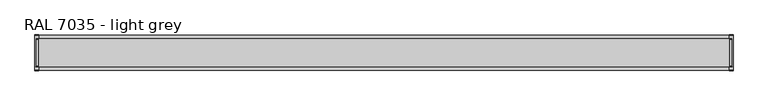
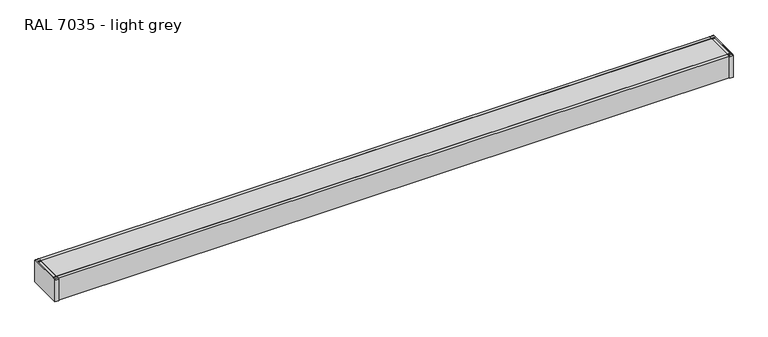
"""IFC4 building model written with IfcOpenShell, lengths in millimetres: proxy geometry, Electrical_Installations_Hager_BRP-Lid-End-Cap-One-Compartment : RAL 7035 - light grey."""

from ifc_helpers import new_model, si_unit, frame, origin, place, context, project, spatial, polyline, circle_curve, outline, extrude, source, transform, mapped, element, save
from ifc_brep_helpers import plane_surface, cylinder_surface, revolved_surface, advanced_brep


def ral_7035_light_grey_bdd1ccd4(model_context):
    return source(origin(), model_context, "Body", "SolidModel", [
        advanced_brep(
        [(2001.7057953, 51.25, 30.95), (2001.7057953, 48.25, 33.95), (2001.7057953, -48.25, 33.95), (2001.7057953, -51.25, 30.95), (2001.7057953, -51.25, -36.15), (2001.7057953, 51.25, -36.15), (2000.0, 41.3486227, 33.95), (2000.0, 39.7831004, 32.5816692), (2000.0, 38.8540942, 31.8477982), (2000.0, -38.8540942, 31.8477982), (2000.0, -39.8003006, 32.7991169), (2000.0, -40.8849518, 33.95), (2000.0, -50.25, -36.15), (2000.0, -50.25, 30.893231), (2000.0, -48.2258096, 32.9174214), (2000.0, -41.5797272, 32.9174214), (2000.0, -40.6819986, 32.1076317), (2000.0, -38.8211594, 30.840625), (2000.0, 38.8211594, 30.840625), (2000.0, 40.6819986, 32.1076317), (2000.0, 41.5797272, 32.9174214), (2000.0, 48.1823332, 32.9174214), (2000.0, 50.2065236, 30.893231), (2000.0, 50.2065236, -36.15), (1990.7057953, 51.25, -36.15), (1990.7057953, 51.25, 30.9198795), (2000.0, 51.25, 30.9198795), (2000.0, -51.25, 30.95), (1990.7057953, -51.25, 30.9423146), (1990.7057953, -51.25, -36.15), (2000.0, 48.25, 33.95), (1990.7057953, 48.2198795, 33.95), (1990.7057953, 41.3486227, 33.95), (1990.7057953, -40.8849518, 33.95), (1990.7057953, -48.2423146, 33.95), (2000.0, -48.2423146, 33.95), (1990.7057953, 38.8540942, 31.8477982), (1990.7057953, 39.7831004, 32.5816692), (1990.7057953, 50.2065236, -36.15), (1990.7057953, 50.2065236, 30.893231), (1990.7057953, 48.1823332, 32.9174214), (1990.7057953, 41.5797272, 32.9174214), (1990.7057953, 40.6819986, 32.1076317), (1990.7057953, 38.8211594, 30.840625), (1990.7057953, -38.8211594, 30.840625), (1990.7057953, -40.6819986, 32.1076317), (1990.7057953, -41.5797272, 32.9174214), (1990.7057953, -48.2258096, 32.9174214), (1990.7057953, -50.25, 30.893231), (1990.7057953, -50.25, -36.15), (1990.7057953, -39.8003006, 32.7991169), (1990.7057953, -38.8540942, 31.8477982)],
        [
            (0, 1, circle_curve(frame((2001.7057953, 48.25, 30.95), z_axis=(1.0, 0.0, 0.0), x_axis=(0.0, 1.0, 0.0)), 3.0)),
            (1, 2),
            (2, 3, circle_curve(frame((2001.7057953, -48.25, 30.95), z_axis=(1.0, 0.0, 0.0), x_axis=(0.0, 1.0, 0.0)), 3.0)),
            (3, 4),
            (4, 5),
            (5, 0),
            (6, 7, circle_curve(frame((2000.0, 41.5321879, 32.16025), z_axis=(1.0, 0.0, 0.0), x_axis=(0.0, 0.0, -1.0)), 1.799139)),
            (7, 8, circle_curve(frame((2000.0, 38.8540942, 32.8027473), z_axis=(-1.0, 0.0, 0.0), x_axis=(0.0, 0.0, -1.0)), 0.9549491)),
            (8, 9),
            (9, 10, circle_curve(frame((2000.0, -38.8540942, 32.7940183), z_axis=(-1.0, 0.0, 0.0), x_axis=(0.0, 0.0, -1.0)), 0.9462201)),
            (10, 11, circle_curve(frame((2000.0, -41.5602767, 32.2269822), z_axis=(1.0, 0.0, 0.0), x_axis=(0.0, 0.0, -1.0)), 1.8506361)),
            (11, 6),
            (12, 13),
            (13, 14, circle_curve(frame((2000.0, -48.2258096, 30.893231), z_axis=(-1.0, 0.0, 0.0), x_axis=(0.0, 0.0, -1.0)), 2.0241904)),
            (14, 15),
            (15, 16, circle_curve(frame((2000.0, -41.5797272, 32.014918), z_axis=(-1.0, 0.0, 0.0), x_axis=(0.0, 0.0, -1.0)), 0.9025034)),
            (16, 17, circle_curve(frame((2000.0, -38.8211594, 32.8406257), z_axis=(1.0, 0.0, 0.0), x_axis=(0.0, 0.0, -1.0)), 2.0000007)),
            (17, 18),
            (18, 19, circle_curve(frame((2000.0, 38.8211594, 32.8406257), z_axis=(1.0, 0.0, 0.0), x_axis=(0.0, 0.0, -1.0)), 2.0000007)),
            (19, 20, circle_curve(frame((2000.0, 41.5797272, 32.014918), z_axis=(-1.0, 0.0, 0.0), x_axis=(0.0, 0.0, -1.0)), 0.9025034)),
            (20, 21),
            (21, 22, circle_curve(frame((2000.0, 48.1823332, 30.893231), z_axis=(-1.0, 0.0, 0.0), x_axis=(0.0, 0.0, -1.0)), 2.0241904)),
            (22, 23),
            (23, 12),
            (5, 24),
            (24, 25),
            (25, 26),
            (26, 0),
            (3, 27),
            (27, 28),
            (28, 29),
            (29, 4),
            (1, 30),
            (30, 31),
            (31, 32),
            (32, 6),
            (11, 33),
            (33, 34),
            (34, 35),
            (35, 2),
            (36, 37, circle_curve(frame((1990.7057953, 38.8540942, 32.8027473), z_axis=(1.0, 0.0, 0.0), x_axis=(0.0, 0.0, -1.0)), 0.9549491)),
            (37, 32, circle_curve(frame((1990.7057953, 41.5321879, 32.16025), z_axis=(-1.0, 0.0, 0.0), x_axis=(0.0, 0.0, -1.0)), 1.799139)),
            (31, 25, circle_curve(frame((1990.7057953, 48.2198795, 30.9198795), z_axis=(-1.0, 0.0, 0.0), x_axis=(0.0, 0.0, -1.0)), 3.0301205)),
            (24, 38),
            (38, 39),
            (39, 40, circle_curve(frame((1990.7057953, 48.1823332, 30.893231), z_axis=(1.0, 0.0, 0.0), x_axis=(0.0, 0.0, -1.0)), 2.0241904)),
            (40, 41),
            (41, 42, circle_curve(frame((1990.7057953, 41.5797272, 32.014918), z_axis=(1.0, 0.0, 0.0), x_axis=(0.0, 0.0, -1.0)), 0.9025034)),
            (42, 43, circle_curve(frame((1990.7057953, 38.8211594, 32.8406257), z_axis=(-1.0, 0.0, 0.0), x_axis=(0.0, 0.0, -1.0)), 2.0000007)),
            (43, 44),
            (44, 45, circle_curve(frame((1990.7057953, -38.8211594, 32.8406257), z_axis=(-1.0, 0.0, 0.0), x_axis=(0.0, 0.0, -1.0)), 2.0000007)),
            (45, 46, circle_curve(frame((1990.7057953, -41.5797272, 32.014918), z_axis=(1.0, 0.0, 0.0), x_axis=(0.0, 0.0, -1.0)), 0.9025034)),
            (46, 47),
            (47, 48, circle_curve(frame((1990.7057953, -48.2258096, 30.893231), z_axis=(1.0, 0.0, 0.0), x_axis=(0.0, 0.0, -1.0)), 2.0241904)),
            (48, 49),
            (49, 29),
            (28, 34, circle_curve(frame((1990.7057953, -48.2423146, 30.9423146), z_axis=(-1.0, 0.0, 0.0), x_axis=(0.0, 0.0, -1.0)), 3.0076854)),
            (33, 50, circle_curve(frame((1990.7057953, -41.5602767, 32.2269822), z_axis=(-1.0, 0.0, 0.0), x_axis=(0.0, 0.0, -1.0)), 1.8506361)),
            (50, 51, circle_curve(frame((1990.7057953, -38.8540942, 32.7940183), z_axis=(1.0, 0.0, 0.0), x_axis=(0.0, 0.0, -1.0)), 0.9462201)),
            (51, 36),
            (36, 8),
            (7, 37),
            (30, 26, circle_curve(frame((2000.0, 48.2198795, 30.9198795), z_axis=(-1.0, 0.0, 0.0), x_axis=(0.0, 0.0, -1.0)), 3.0301205)),
            (38, 23),
            (22, 39),
            (21, 40),
            (20, 41),
            (19, 42),
            (18, 43),
            (17, 44),
            (16, 45),
            (15, 46),
            (14, 47),
            (13, 48),
            (12, 49),
            (27, 35, circle_curve(frame((2000.0, -48.2423146, 30.9423146), z_axis=(-1.0, 0.0, 0.0), x_axis=(0.0, 0.0, -1.0)), 3.0076854)),
            (10, 50),
            (9, 51),
        ],
        [
            plane_surface(frame((2001.7057953, 51.25, -36.15), z_axis=(1.0, 0.0, 0.0), x_axis=(0.0, 0.0, -1.0))),
            plane_surface(frame((2000.0, 51.25, -36.15), z_axis=(-1.0, 0.0, 0.0), x_axis=(0.0, 0.0, 1.0))),
            plane_surface(frame((2001.7057953, 51.25, 30.95), z_axis=(0.0, 1.0, 0.0), x_axis=(-1.0, 0.0, 0.0))),
            plane_surface(frame((2001.7057953, -51.25, -36.15), z_axis=(0.0, -1.0, 0.0), x_axis=(-1.0, 0.0, 0.0))),
            plane_surface(frame((2001.7057953, -48.25, 33.95), z_axis=(0.0, 0.0, 1.0), x_axis=(-1.0, 0.0, 0.0))),
            plane_surface(frame((1990.7057953, -32.5, -0.05), z_axis=(-1.0, 0.0, 0.0), x_axis=(0.0, 0.0, -1.0))),
            revolved_surface(polyline([(1990.7057953, 38.8540942, 31.8477982), (2000.0, 38.8540942, 31.8477982)]), (2000.0, 38.8540942, 32.8027473), (-1.0, 0.0, 0.0)),
            cylinder_surface(frame((2000.0, 41.5321879, 32.16025), z_axis=(1.0, 0.0, 0.0), x_axis=(0.0, 0.0, -1.0)), 1.799139),
            cylinder_surface(frame((2000.0, 48.2198795, 30.9198795), z_axis=(1.0, 0.0, 0.0), x_axis=(0.0, 0.0, -1.0)), 3.0301205),
            plane_surface(frame((2000.0, 50.2065236, -36.15), z_axis=(0.0, -1.0, 0.0), x_axis=(-1.0, 0.0, 0.0))),
            revolved_surface(polyline([(1990.7057953, 48.1823332, 28.869040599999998), (2000.0, 48.1823332, 28.869040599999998)]), (2000.0, 48.1823332, 30.893231), (-1.0, 0.0, 0.0)),
            plane_surface(frame((2000.0, 48.1823332, 32.9174214), z_axis=(0.0, 0.0, -1.0), x_axis=(-1.0, 0.0, 0.0))),
            revolved_surface(polyline([(1990.7057953, 41.5797272, 31.1124146), (2000.0, 41.5797272, 31.1124146)]), (2000.0, 41.5797272, 32.014918), (-1.0, 0.0, 0.0)),
            cylinder_surface(frame((2000.0, 38.8211594, 32.8406257), z_axis=(1.0, 0.0, 0.0), x_axis=(0.0, 0.0, -1.0)), 2.0000007),
            plane_surface(frame((2000.0, 38.8211594, 30.840625), z_axis=(0.0, 0.0, -1.0), x_axis=(-1.0, 0.0, 0.0))),
            cylinder_surface(frame((2000.0, -38.8211594, 32.8406257), z_axis=(1.0, 0.0, 0.0), x_axis=(0.0, 0.0, -1.0)), 2.0000007),
            revolved_surface(polyline([(1990.7057953, -41.5797272, 31.1124146), (2000.0, -41.5797272, 31.1124146)]), (2000.0, -41.5797272, 32.014918), (-1.0, 0.0, 0.0)),
            plane_surface(frame((2000.0, -41.5797272, 32.9174214), z_axis=(0.0, 0.0, -1.0), x_axis=(-1.0, 0.0, 0.0))),
            revolved_surface(polyline([(1990.7057953, -48.2258096, 28.869040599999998), (2000.0, -48.2258096, 28.869040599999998)]), (2000.0, -48.2258096, 30.893231), (-1.0, 0.0, 0.0)),
            plane_surface(frame((2000.0, -50.25, 30.893231), z_axis=(0.0, 1.0, 0.0), x_axis=(-1.0, 0.0, 0.0))),
            cylinder_surface(frame((2000.0, -48.2423146, 30.9423146), z_axis=(1.0, 0.0, 0.0), x_axis=(0.0, 0.0, -1.0)), 3.0076854),
            cylinder_surface(frame((2000.0, -41.5602767, 32.2269822), z_axis=(1.0, 0.0, 0.0), x_axis=(0.0, 0.0, -1.0)), 1.8506361),
            revolved_surface(polyline([(1990.7057953, -38.8540942, 31.847798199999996), (2000.0, -38.8540942, 31.847798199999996)]), (2000.0, -38.8540942, 32.7940183), (-1.0, 0.0, 0.0)),
            plane_surface(frame((2000.0, -38.8540942, 31.8477982), z_axis=(0.0, 0.0, 1.0), x_axis=(-1.0, 0.0, 0.0))),
            cylinder_surface(frame((2000.0, -48.25, 30.95), z_axis=(1.0, 0.0, 0.0), x_axis=(0.0, 1.0, 0.0)), 3.0),
            cylinder_surface(frame((2000.0, 48.25, 30.95), z_axis=(1.0, 0.0, 0.0), x_axis=(0.0, 1.0, 0.0)), 3.0),
            plane_surface(frame((2001.7057953, 51.25, -36.15), z_axis=(0.0, 0.0, -1.0), x_axis=(-1.0, 0.0, 0.0))),
        ],
        [
            (0, [[1, 2, 3, 4, 5, 6]]),
            (1, [[7, 8, 9, 10, 11, 12]]),
            (1, [[13, 14, 15, 16, 17, 18, 19, 20, 21, 22, 23, 24]]),
            (2, [[25, 26, 27, 28, -6]]),
            (3, [[29, 30, 31, 32, -4]]),
            (4, [[33, 34, 35, 36, -12, 37, 38, 39, 40, -2]]),
            (5, [[41, 42, -35, 43, -26, 44, 45, 46, 47, 48, 49, 50, 51, 52, 53, 54, 55, 56, -31, 57, -38, 58, 59, 60]]),
            (6, [[61, -8, 62, -41]]),
            (7, [[-62, -7, -36, -42]]),
            (8, [[-34, 63, -27, -43]]),
            (9, [[64, -23, 65, -45]]),
            (10, [[-65, -22, 66, -46]]),
            (11, [[-66, -21, 67, -47]]),
            (12, [[-67, -20, 68, -48]]),
            (13, [[-68, -19, 69, -49]]),
            (14, [[-69, -18, 70, -50]]),
            (15, [[-70, -17, 71, -51]]),
            (16, [[-71, -16, 72, -52]]),
            (17, [[-72, -15, 73, -53]]),
            (18, [[-73, -14, 74, -54]]),
            (19, [[-74, -13, 75, -55]]),
            (20, [[-30, 76, -39, -57]]),
            (21, [[-37, -11, 77, -58]]),
            (22, [[-77, -10, 78, -59]]),
            (23, [[-78, -9, -61, -60]]),
            (24, [[-40, -76, -29, -3]]),
            (25, [[-28, -63, -33, -1]]),
            (26, [[-56, -75, -24, -64, -44, -25, -5, -32]]),
        ],
    ),
        advanced_brep(
        [(-1.7057953, 51.25, 30.95), (-1.7057953, 51.25, -36.15), (-1.7057953, -51.25, -36.15), (-1.7057953, -51.25, 30.95), (-1.7057953, -48.25, 33.95), (-1.7057953, 48.25, 33.95), (0.0, 41.3486227, 33.95), (0.0, -40.8849518, 33.95), (0.0, -39.8003006, 32.7991169), (0.0, -38.8540942, 31.8477982), (0.0, 38.8540942, 31.8477982), (0.0, 39.7831004, 32.5816692), (0.0, -50.25, -36.15), (0.0, 50.2065236, -36.15), (0.0, 50.2065236, 30.893231), (0.0, 48.1823332, 32.9174214), (0.0, 41.5797272, 32.9174214), (0.0, 40.6819986, 32.1076317), (0.0, 38.8211594, 30.840625), (0.0, -38.8211594, 30.840625), (0.0, -40.6819986, 32.1076317), (0.0, -41.5797272, 32.9174214), (0.0, -48.2258096, 32.9174214), (0.0, -50.25, 30.893231), (0.0, 51.25, 30.95), (9.2942047, 51.25, 30.9198795), (9.2942047, 51.25, -36.15), (9.2942047, -51.25, -36.15), (9.2942047, -51.25, 30.9423146), (0.0, -51.25, 30.9423146), (0.0, -48.25, 33.95), (9.2942047, -48.2423146, 33.95), (9.2942047, -40.8849518, 33.95), (9.2942047, 41.3486227, 33.95), (9.2942047, 48.2198795, 33.95), (0.0, 48.2198795, 33.95), (9.2942047, 38.8540942, 31.8477982), (9.2942047, -38.8540942, 31.8477982), (9.2942047, -39.8003006, 32.7991169), (9.2942047, -50.25, -36.15), (9.2942047, -50.25, 30.893231), (9.2942047, -48.2258096, 32.9174214), (9.2942047, -41.5797272, 32.9174214), (9.2942047, -40.6819986, 32.1076317), (9.2942047, -38.8211594, 30.840625), (9.2942047, 38.8211594, 30.840625), (9.2942047, 40.6819986, 32.1076317), (9.2942047, 41.5797272, 32.9174214), (9.2942047, 48.1823332, 32.9174214), (9.2942047, 50.2065236, 30.893231), (9.2942047, 50.2065236, -36.15), (9.2942047, 39.7831004, 32.5816692)],
        [
            (0, 1),
            (1, 2),
            (2, 3),
            (3, 4, circle_curve(frame((-1.7057953, -48.25, 30.95), z_axis=(-1.0, 0.0, 0.0), x_axis=(0.0, 1.0, 0.0)), 3.0)),
            (4, 5),
            (5, 0, circle_curve(frame((-1.7057953, 48.25, 30.95), z_axis=(-1.0, 0.0, 0.0), x_axis=(0.0, 1.0, 0.0)), 3.0)),
            (6, 7),
            (7, 8, circle_curve(frame((0.0, -41.5602767, 32.2269822), z_axis=(-1.0, 0.0, 0.0), x_axis=(0.0, 0.0, -1.0)), 1.8506361)),
            (8, 9, circle_curve(frame((0.0, -38.8540942, 32.7940183), z_axis=(1.0, 0.0, 0.0), x_axis=(0.0, 0.0, -1.0)), 0.9462201)),
            (9, 10),
            (10, 11, circle_curve(frame((0.0, 38.8540942, 32.8027473), z_axis=(1.0, 0.0, 0.0), x_axis=(0.0, 0.0, -1.0)), 0.9549491)),
            (11, 6, circle_curve(frame((0.0, 41.5321879, 32.16025), z_axis=(-1.0, 0.0, 0.0), x_axis=(0.0, 0.0, -1.0)), 1.799139)),
            (12, 13),
            (13, 14),
            (14, 15, circle_curve(frame((0.0, 48.1823332, 30.893231), z_axis=(1.0, 0.0, 0.0), x_axis=(0.0, 0.0, -1.0)), 2.0241904)),
            (15, 16),
            (16, 17, circle_curve(frame((0.0, 41.5797272, 32.014918), z_axis=(1.0, 0.0, 0.0), x_axis=(0.0, 0.0, -1.0)), 0.9025034)),
            (17, 18, circle_curve(frame((0.0, 38.8211594, 32.8406257), z_axis=(-1.0, 0.0, 0.0), x_axis=(0.0, 0.0, -1.0)), 2.0000007)),
            (18, 19),
            (19, 20, circle_curve(frame((0.0, -38.8211594, 32.8406257), z_axis=(-1.0, 0.0, 0.0), x_axis=(0.0, 0.0, -1.0)), 2.0000007)),
            (20, 21, circle_curve(frame((0.0, -41.5797272, 32.014918), z_axis=(1.0, 0.0, 0.0), x_axis=(0.0, 0.0, -1.0)), 0.9025034)),
            (21, 22),
            (22, 23, circle_curve(frame((0.0, -48.2258096, 30.893231), z_axis=(1.0, 0.0, 0.0), x_axis=(0.0, 0.0, -1.0)), 2.0241904)),
            (23, 12),
            (0, 24),
            (24, 25),
            (25, 26),
            (26, 1),
            (2, 27),
            (27, 28),
            (28, 29),
            (29, 3),
            (4, 30),
            (30, 31),
            (31, 32),
            (32, 7),
            (6, 33),
            (33, 34),
            (34, 35),
            (35, 5),
            (36, 37),
            (37, 38, circle_curve(frame((9.2942047, -38.8540942, 32.7940183), z_axis=(-1.0, 0.0, 0.0), x_axis=(0.0, 0.0, -1.0)), 0.9462201)),
            (38, 32, circle_curve(frame((9.2942047, -41.5602767, 32.2269822), z_axis=(1.0, 0.0, 0.0), x_axis=(0.0, 0.0, -1.0)), 1.8506361)),
            (31, 28, circle_curve(frame((9.2942047, -48.2423146, 30.9423146), z_axis=(1.0, 0.0, 0.0), x_axis=(0.0, 0.0, -1.0)), 3.0076854)),
            (27, 39),
            (39, 40),
            (40, 41, circle_curve(frame((9.2942047, -48.2258096, 30.893231), z_axis=(-1.0, 0.0, 0.0), x_axis=(0.0, 0.0, -1.0)), 2.0241904)),
            (41, 42),
            (42, 43, circle_curve(frame((9.2942047, -41.5797272, 32.014918), z_axis=(-1.0, 0.0, 0.0), x_axis=(0.0, 0.0, -1.0)), 0.9025034)),
            (43, 44, circle_curve(frame((9.2942047, -38.8211594, 32.8406257), z_axis=(1.0, 0.0, 0.0), x_axis=(0.0, 0.0, -1.0)), 2.0000007)),
            (44, 45),
            (45, 46, circle_curve(frame((9.2942047, 38.8211594, 32.8406257), z_axis=(1.0, 0.0, 0.0), x_axis=(0.0, 0.0, -1.0)), 2.0000007)),
            (46, 47, circle_curve(frame((9.2942047, 41.5797272, 32.014918), z_axis=(-1.0, 0.0, 0.0), x_axis=(0.0, 0.0, -1.0)), 0.9025034)),
            (47, 48),
            (48, 49, circle_curve(frame((9.2942047, 48.1823332, 30.893231), z_axis=(-1.0, 0.0, 0.0), x_axis=(0.0, 0.0, -1.0)), 2.0241904)),
            (49, 50),
            (50, 26),
            (25, 34, circle_curve(frame((9.2942047, 48.2198795, 30.9198795), z_axis=(1.0, 0.0, 0.0), x_axis=(0.0, 0.0, -1.0)), 3.0301205)),
            (33, 51, circle_curve(frame((9.2942047, 41.5321879, 32.16025), z_axis=(1.0, 0.0, 0.0), x_axis=(0.0, 0.0, -1.0)), 1.799139)),
            (51, 36, circle_curve(frame((9.2942047, 38.8540942, 32.8027473), z_axis=(-1.0, 0.0, 0.0), x_axis=(0.0, 0.0, -1.0)), 0.9549491)),
            (51, 11),
            (10, 36),
            (24, 35, circle_curve(frame((0.0, 48.2198795, 30.9198795), z_axis=(1.0, 0.0, 0.0), x_axis=(0.0, 0.0, -1.0)), 3.0301205)),
            (49, 14),
            (13, 50),
            (48, 15),
            (47, 16),
            (46, 17),
            (45, 18),
            (44, 19),
            (43, 20),
            (42, 21),
            (41, 22),
            (40, 23),
            (39, 12),
            (30, 29, circle_curve(frame((0.0, -48.2423146, 30.9423146), z_axis=(1.0, 0.0, 0.0), x_axis=(0.0, 0.0, -1.0)), 3.0076854)),
            (38, 8),
            (37, 9),
        ],
        [
            plane_surface(frame((-1.7057953, 51.25, -36.15), z_axis=(-1.0, 0.0, 0.0), x_axis=(0.0, 0.0, -1.0))),
            plane_surface(frame((0.0, 51.25, -36.15), z_axis=(1.0, 0.0, 0.0), x_axis=(0.0, 0.0, 1.0))),
            plane_surface(frame((-1.7057953, 51.25, 30.95), z_axis=(0.0, 1.0, 0.0), x_axis=(1.0, 0.0, 0.0))),
            plane_surface(frame((-1.7057953, -51.25, -36.15), z_axis=(0.0, -1.0, 0.0), x_axis=(1.0, 0.0, 0.0))),
            plane_surface(frame((-1.7057953, -48.25, 33.95), z_axis=(0.0, 0.0, 1.0), x_axis=(1.0, 0.0, 0.0))),
            plane_surface(frame((9.2942047, -32.5, -0.05), z_axis=(1.0, 0.0, 0.0), x_axis=(0.0, 0.0, -1.0))),
            revolved_surface(polyline([(9.2942047, 38.8540942, 31.8477982), (0.0, 38.8540942, 31.8477982)]), (0.0, 38.8540942, 32.8027473), (1.0, 0.0, 0.0)),
            cylinder_surface(frame((0.0, 41.5321879, 32.16025), z_axis=(-1.0, 0.0, 0.0), x_axis=(0.0, 0.0, -1.0)), 1.799139),
            cylinder_surface(frame((0.0, 48.2198795, 30.9198795), z_axis=(-1.0, 0.0, 0.0), x_axis=(0.0, 0.0, -1.0)), 3.0301205),
            plane_surface(frame((0.0, 50.2065236, -36.15), z_axis=(0.0, -1.0, 0.0), x_axis=(1.0, 0.0, 0.0))),
            revolved_surface(polyline([(9.2942047, 48.1823332, 28.869040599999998), (0.0, 48.1823332, 28.869040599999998)]), (0.0, 48.1823332, 30.893231), (1.0, 0.0, 0.0)),
            plane_surface(frame((0.0, 48.1823332, 32.9174214), z_axis=(0.0, 0.0, -1.0), x_axis=(1.0, 0.0, 0.0))),
            revolved_surface(polyline([(9.2942047, 41.5797272, 31.1124146), (0.0, 41.5797272, 31.1124146)]), (0.0, 41.5797272, 32.014918), (1.0, 0.0, 0.0)),
            cylinder_surface(frame((0.0, 38.8211594, 32.8406257), z_axis=(-1.0, 0.0, 0.0), x_axis=(0.0, 0.0, -1.0)), 2.0000007),
            plane_surface(frame((0.0, 38.8211594, 30.840625), z_axis=(0.0, 0.0, -1.0), x_axis=(1.0, 0.0, 0.0))),
            cylinder_surface(frame((0.0, -38.8211594, 32.8406257), z_axis=(-1.0, 0.0, 0.0), x_axis=(0.0, 0.0, -1.0)), 2.0000007),
            revolved_surface(polyline([(9.2942047, -41.5797272, 31.1124146), (0.0, -41.5797272, 31.1124146)]), (0.0, -41.5797272, 32.014918), (1.0, 0.0, 0.0)),
            plane_surface(frame((0.0, -41.5797272, 32.9174214), z_axis=(0.0, 0.0, -1.0), x_axis=(1.0, 0.0, 0.0))),
            revolved_surface(polyline([(9.2942047, -48.2258096, 28.869040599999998), (0.0, -48.2258096, 28.869040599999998)]), (0.0, -48.2258096, 30.893231), (1.0, 0.0, 0.0)),
            plane_surface(frame((0.0, -50.25, 30.893231), z_axis=(0.0, 1.0, 0.0), x_axis=(1.0, 0.0, 0.0))),
            cylinder_surface(frame((0.0, -48.2423146, 30.9423146), z_axis=(-1.0, 0.0, 0.0), x_axis=(0.0, 0.0, -1.0)), 3.0076854),
            cylinder_surface(frame((0.0, -41.5602767, 32.2269822), z_axis=(-1.0, 0.0, 0.0), x_axis=(0.0, 0.0, -1.0)), 1.8506361),
            revolved_surface(polyline([(9.2942047, -38.8540942, 31.847798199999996), (0.0, -38.8540942, 31.847798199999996)]), (0.0, -38.8540942, 32.7940183), (1.0, 0.0, 0.0)),
            plane_surface(frame((0.0, -38.8540942, 31.8477982), z_axis=(0.0, 0.0, 1.0), x_axis=(1.0, 0.0, 0.0))),
            cylinder_surface(frame((0.0, -48.25, 30.95), z_axis=(-1.0, 0.0, 0.0), x_axis=(0.0, 1.0, 0.0)), 3.0),
            cylinder_surface(frame((0.0, 48.25, 30.95), z_axis=(-1.0, 0.0, 0.0), x_axis=(0.0, 1.0, 0.0)), 3.0),
            plane_surface(frame((-1.7057953, 51.25, -36.15), z_axis=(0.0, 0.0, -1.0), x_axis=(1.0, 0.0, 0.0))),
        ],
        [
            (0, [[1, 2, 3, 4, 5, 6]]),
            (1, [[7, 8, 9, 10, 11, 12]]),
            (1, [[13, 14, 15, 16, 17, 18, 19, 20, 21, 22, 23, 24]]),
            (2, [[-1, 25, 26, 27, 28]]),
            (3, [[-3, 29, 30, 31, 32]]),
            (4, [[-5, 33, 34, 35, 36, -7, 37, 38, 39, 40]]),
            (5, [[41, 42, 43, -35, 44, -30, 45, 46, 47, 48, 49, 50, 51, 52, 53, 54, 55, 56, 57, -27, 58, -38, 59, 60]]),
            (6, [[-60, 61, -11, 62]]),
            (7, [[-59, -37, -12, -61]]),
            (8, [[-58, -26, 63, -39]]),
            (9, [[-56, 64, -14, 65]]),
            (10, [[-55, 66, -15, -64]]),
            (11, [[-54, 67, -16, -66]]),
            (12, [[-53, 68, -17, -67]]),
            (13, [[-52, 69, -18, -68]]),
            (14, [[-51, 70, -19, -69]]),
            (15, [[-50, 71, -20, -70]]),
            (16, [[-49, 72, -21, -71]]),
            (17, [[-48, 73, -22, -72]]),
            (18, [[-47, 74, -23, -73]]),
            (19, [[-46, 75, -24, -74]]),
            (20, [[-44, -34, 76, -31]]),
            (21, [[-43, 77, -8, -36]]),
            (22, [[-42, 78, -9, -77]]),
            (23, [[-41, -62, -10, -78]]),
            (24, [[-4, -32, -76, -33]]),
            (25, [[-6, -40, -63, -25]]),
            (26, [[-29, -2, -28, -57, -65, -13, -75, -45]]),
        ],
    ),
        extrude(outline(polyline([(40.0, 18.6492509), (37.5361498, 18.6492509), (37.5361498, 30.0), (-37.5361498, 30.0), (-37.5361498, 18.6492509), (-40.0, 18.6492509), (-40.0, 33.0), (40.0, 33.0), (40.0, 18.6492509)])), frame((9.0, 0.0, 0.0), z_axis=(1.0, 0.0, 0.0), x_axis=(0.0, 1.0, 0.0)), (0.0, 0.0, 1.0), 1982.0),
        extrude(outline(polyline([(50.0, 33.0), (50.0, -35.0582587), (-50.0, -35.0582587), (-50.0, 33.0), (-40.5, 33.0), (-40.5, 16.0), (-36.578125, 16.0), (-36.578125, 24.0415809), (-35.3, 24.0415809), (-35.3, 14.0), (-42.5, 14.0), (-42.5, 30.0), (-47.0, 30.0), (-47.0, -32.0582587), (47.0, -32.0582587), (47.0, 30.0), (42.5, 30.0), (42.5, 14.0), (35.221875, 14.0), (35.221875, 24.0415809), (36.5, 24.0415809), (36.5, 16.0), (40.5, 16.0), (40.5, 33.0), (50.0, 33.0)])), frame((0.0, 0.0, 0.0), z_axis=(1.0, 0.0, 0.0), x_axis=(0.0, 1.0, 0.0)), (0.0, 0.0, 1.0), 2000.0),
    ])


if __name__ == "__main__":
    model = new_model("IFC4")
    model_context = context("Model", 3, world=origin())
    ifc_project = project(units=[si_unit("LENGTHUNIT", "METRE", prefix="MILLI")], contexts=[model_context])
    site = spatial("IfcSite", under=ifc_project)
    building = spatial("IfcBuilding", under=site)
    placement = place(None, origin())
    ral_7035_light_grey_shape = ral_7035_light_grey_bdd1ccd4(model_context)
    element("IfcBuildingElementProxy", 1, Name="Electrical_Installations_Hager_BRP-Lid-End-Cap-One-Compartment : RAL 7035 - light grey", ObjectType="Electrical_Installations_Hager_BRP-Lid-End-Cap-One-Compartment : RAL 7035 - light grey", at=placement, inside=building, context=model_context, shape_type="MappedRepresentation", body=[
        mapped(ral_7035_light_grey_shape, transform((0.0, 0.0, 0.0), x_axis=(1.0, 0.0, 0.0), y_axis=(0.0, 1.0, 0.0), z_axis=(0.0, 0.0, 1.0))),
    ])
    save(model, "model.ifc")
